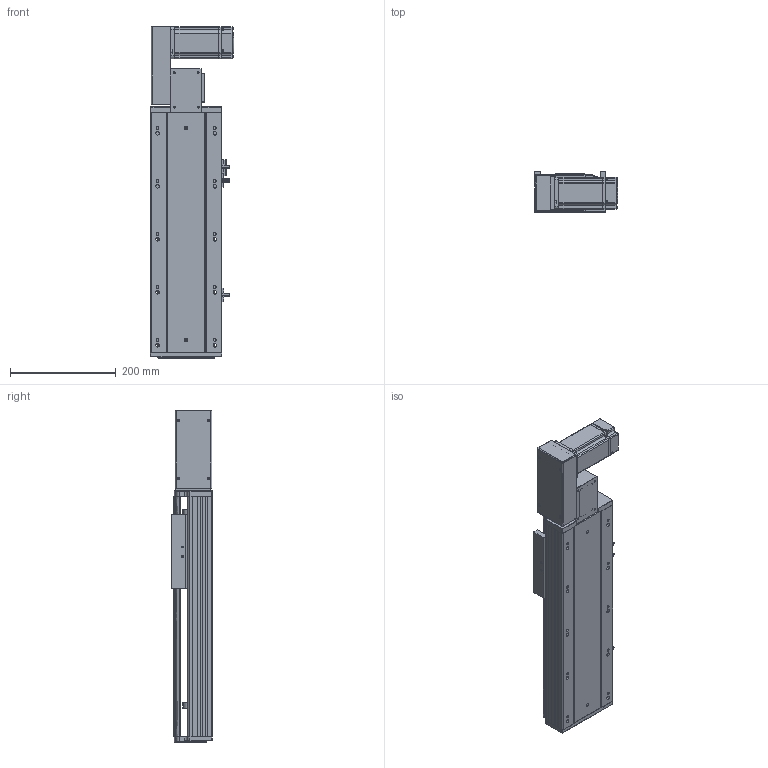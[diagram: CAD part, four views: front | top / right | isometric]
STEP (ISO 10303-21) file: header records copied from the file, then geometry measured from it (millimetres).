
FILE_DESCRIPTION (( 'STEP AP203' ), '1' );
FILE_NAME ('RY140-T-300-LK.SLDASM_200.step', '2021-03-01T06:34:31', ( '盈信电脑' ), ( '东莞市道滘镇水果街19号' ), 'SwSTEP 2.0', 'SolidWorks 2012', '' );
FILE_SCHEMA (( 'CONFIG_CONTROL_DESIGN' ));
Length unit declared in the file: millimetre
Products named in the file (18): 覜茼ん672; RY140綴裔啣; RY140-T-300-DL倰第奻裔啣_200; RY140-T-300-DL倰第菁釱_200; RY140肮祭謫臏賑輸; RY140-T-300-LK.SLDASM_200; RY140-T翋肮謫裔啣; 滅袉蝶18-10; RY140-T萇儂欶; RY120-T主同步轮轴承压盖; 侂狟400W侜督萇儂; 15; RY120-T蹟翐M4; RY140-T翋肮祭謫盓傅釱; RY140-T萇儂假蚾啣; RY120-T肮祭湍揤踡輸1; RY120-T肮祭湍揤踡輸2; RY120外置感应片(140共用）
Assembly tree (23 placements, depth 3):
  RY140-T-300-LK.SLDASM_200
    RY140-T-300-DL倰第菁釱_200
    RY140肮祭謫臏賑輸
    RY140-T-300-DL倰第奻裔啣_200
    RY140綴裔啣
    覜茼ん672  x3
    RY120外置感应片(140共用）
    RY120-T肮祭湍揤踡輸2
    RY120-T肮祭湍揤踡輸1
    RY140-T翋肮祭謫盓傅釱
    RY140-T萇儂假蚾啣
    侂狟400W侜督萇儂
      15
    RY120-T主同步轮轴承压盖
    RY120-T蹟翐M4  x4
    RY140-T萇儂欶
    滅袉蝶18-10  x2
    RY140-T翋肮謫裔啣
Bounding box: 157 x 78 x 626.5 mm (x, y, z)
Volume: 2082097.1 mm3; surface area: 743167.5 mm2
Topology: 22 solids, 22 shells, 2531 faces, 6909 edges, 4466 vertices
Faces by surface type: plane 1385, cylinder 880, cone 166, bspline 100
Entity records: 80073 total; most frequent: CARTESIAN_POINT 19637, ORIENTED_EDGE 12410, DIRECTION 11733, EDGE_CURVE 6205, VERTEX_POINT 4065, LINE 4053, VECTOR 4053, AXIS2_PLACEMENT_3D 3840
